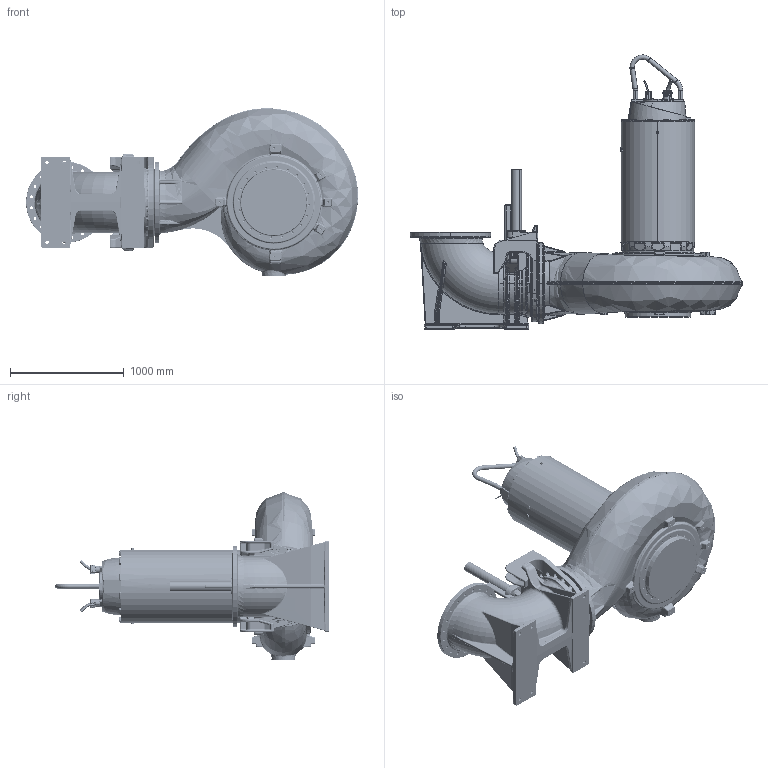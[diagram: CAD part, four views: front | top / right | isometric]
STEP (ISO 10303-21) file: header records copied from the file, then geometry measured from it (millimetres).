
FILE_DESCRIPTION (( 'STEP AP214' ), '1' );
FILE_NAME ('PE6_XFP501U-SK3_WET_A_NG2.STEP', '2017-03-28T12:03:10', ( '' ), ( '' ), 'SwSTEP 2.0', 'SolidWorks 2017', '' );
FILE_SCHEMA (( 'AUTOMOTIVE_DESIGN' ));
Length unit declared in the file: millimetre
Products named in the file (1): PE6_XFP501U-SK3_WET_A_NG2
Bounding box: 2913.14 x 2405.25 x 1469.44 mm (x, y, z)
Volume: 1533453588.2 mm3; surface area: 16683155 mm2
Topology: 4 solids, 17 shells, 5201 faces, 12651 edges, 7333 vertices
Faces by surface type: cylinder 1525, bspline 1435, plane 1062, torus 593, cone 332, sphere 254
Entity records: 302129 total; most frequent: CARTESIAN_POINT 135563, ORIENTED_EDGE 24704, DIRECTION 20816, EDGE_CURVE 12352, AXIS2_PLACEMENT_3D 8527, VERTEX_POINT 7302, EDGE_LOOP 5512, UNCERTAINTY_MEASURE_WITH_UNIT 5207
